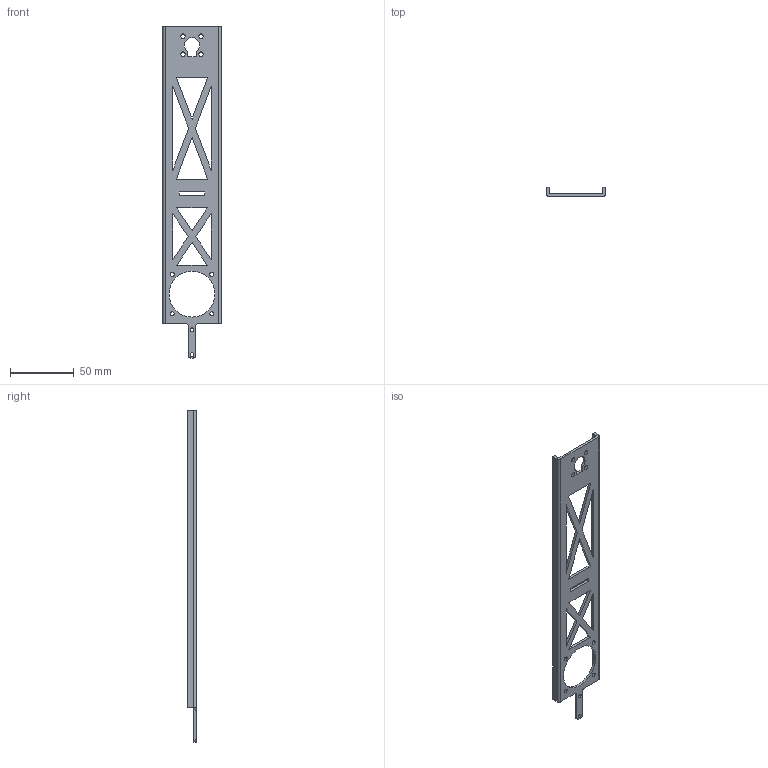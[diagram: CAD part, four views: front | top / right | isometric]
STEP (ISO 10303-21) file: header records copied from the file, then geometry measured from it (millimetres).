
FILE_DESCRIPTION (( 'STEP AP203' ), '1' );
FILE_NAME ('儂迮旋1僇.STEP', '2025-08-22T12:46:55', ( '' ), ( '' ), 'SwSTEP 2.0', 'SolidWorks 2025', '' );
FILE_SCHEMA (( 'CONFIG_CONTROL_DESIGN' ));
Length unit declared in the file: millimetre
Products named in the file (1): 机械臂1段
Bounding box: 46 x 7 x 260.05 mm (x, y, z)
Volume: 18452.1 mm3; surface area: 21830.6 mm2
Topology: 1 solids, 1 shells, 75 faces, 219 edges, 146 vertices
Faces by surface type: plane 45, cylinder 30
Entity records: 2654 total; most frequent: CARTESIAN_POINT 441, ORIENTED_EDGE 438, DIRECTION 431, EDGE_CURVE 219, VECTOR 159, LINE 159, VERTEX_POINT 146, AXIS2_PLACEMENT_3D 136
